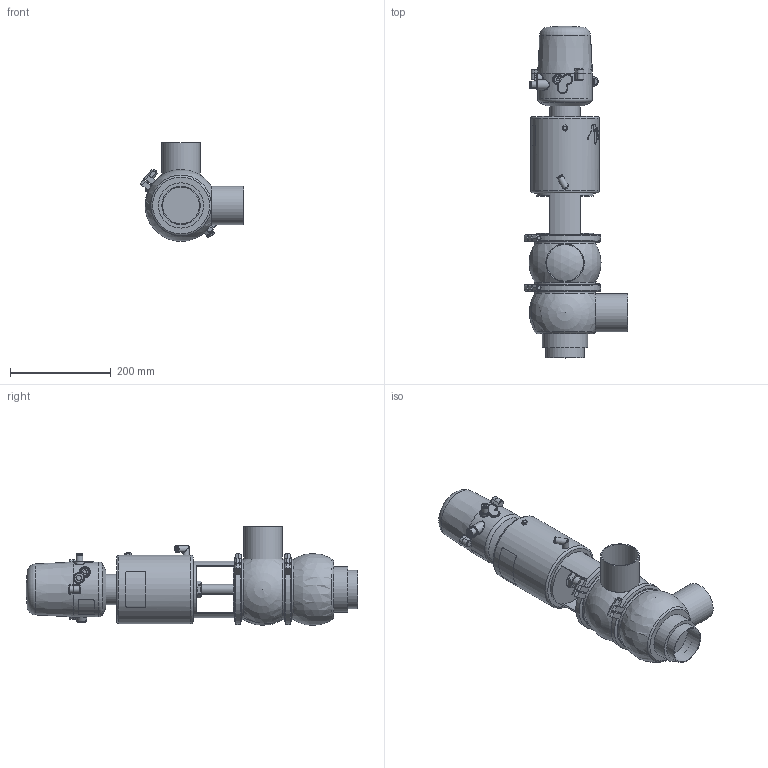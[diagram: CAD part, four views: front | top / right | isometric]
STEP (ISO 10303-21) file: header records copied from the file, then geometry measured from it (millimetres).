
FILE_DESCRIPTION (( 'STEP AP214' ), '1' );
FILE_NAME ('INNOVA K H W OD 3 T3 AS NC & C-TOP S_10.240.16.0073.STEP', '2024-08-06T08:55:39', ( '' ), ( '' ), 'SwSTEP 2.0', 'SolidWorks 2023', '' );
FILE_SCHEMA (( 'AUTOMOTIVE_DESIGN' ));
Length unit declared in the file: millimetre
Products named in the file (8): 10.240.15.0017_Estàndard; 10.240.15.0001_DN 080; 10.240.15.0010_DN 080; 10.240.15.0002_OD 3"; INNOVA K H W OD 3 T3 AS NC & C-TOP S_10.240.16.0073; 10.240.15.0014_T3 AS P0; 10.426.15.0001_C-TOP S - 1 EV; 10.240.15.0006_OD 3"
Assembly tree (8 placements, depth 2):
  INNOVA K H W OD 3 T3 AS NC & C-TOP S_10.240.16.0073
    10.240.15.0006_OD 3"
    10.240.15.0002_OD 3"
    10.240.15.0010_DN 080
    10.240.15.0014_T3 AS P0
    10.240.15.0017_Estàndard
    10.426.15.0001_C-TOP S - 1 EV
    10.240.15.0001_DN 080  x2
Bounding box: 206.43 x 660 x 196.5 mm (x, y, z)
Volume: 6806122 mm3; surface area: 526514.5 mm2
Topology: 8 solids, 8 shells, 1172 faces, 2831 edges, 1885 vertices
Faces by surface type: plane 410, cylinder 356, cone 201, bspline 160, torus 37, sphere 8
Full cylindrical faces by diameter (mm): 0.371 x17, 0.512 x16, 0.658 x16, 0.795 x16, 0.94 x15, 1.098 x15, 1.241 x13, 1.382 x13, 1.523 x11, 1.669 x10, 2.201 x1, 4 x2, 5.5 x2, 6 x2, 6.15 x1, 8 x6, 8.5 x1, 10 x1, 10.5 x1, 11 x2, 12.5 x3, 13 x2, 13.5 x2, 16 x1, 17 x3, 20 x3, 20.5 x1, 22 x2, 31 x1, 34.5 x3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
Entity records: 58035 total; most frequent: CARTESIAN_POINT 27840, ORIENTED_EDGE 4508, DIRECTION 3647, EDGE_CURVE 2254, VERTEX_POINT 1605, EDGE_LOOP 1571, AXIS2_PLACEMENT_3D 1495, FACE_OUTER_BOUND 1331
